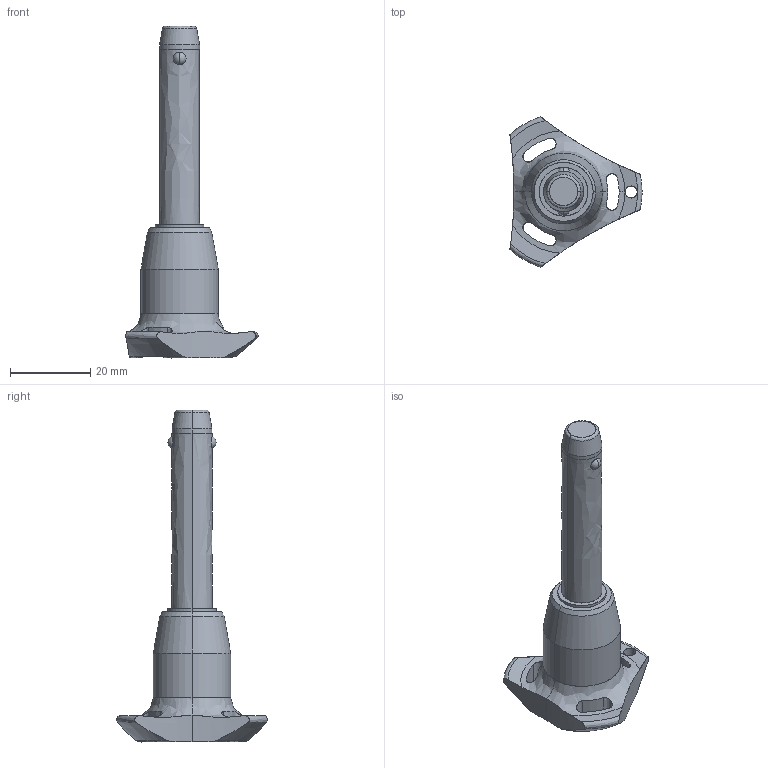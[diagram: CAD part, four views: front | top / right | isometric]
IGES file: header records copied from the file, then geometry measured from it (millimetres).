
Start section: SolidWorks IGES file using analytic representation for surfaces
Global section: file name: C:\Users\ianosborn\Desktop\33060_v2\33060.BK_v2_20240910_IGES\33060.W0848.igs; native system: SolidWorks 2019; preprocessor: SolidWorks 2019; author: IanOsborn; date: 240910.201201; units: millimetre
Bounding box: 33 x 37.51 x 82.9 mm (x, y, z)
Surface area: 5421.3 mm2 (no closed solid volume)
Topology: 0 solids, 0 shells, 68 faces, 1354 edges, 1350 vertices
Faces by surface type: revolution 52, bspline 16
